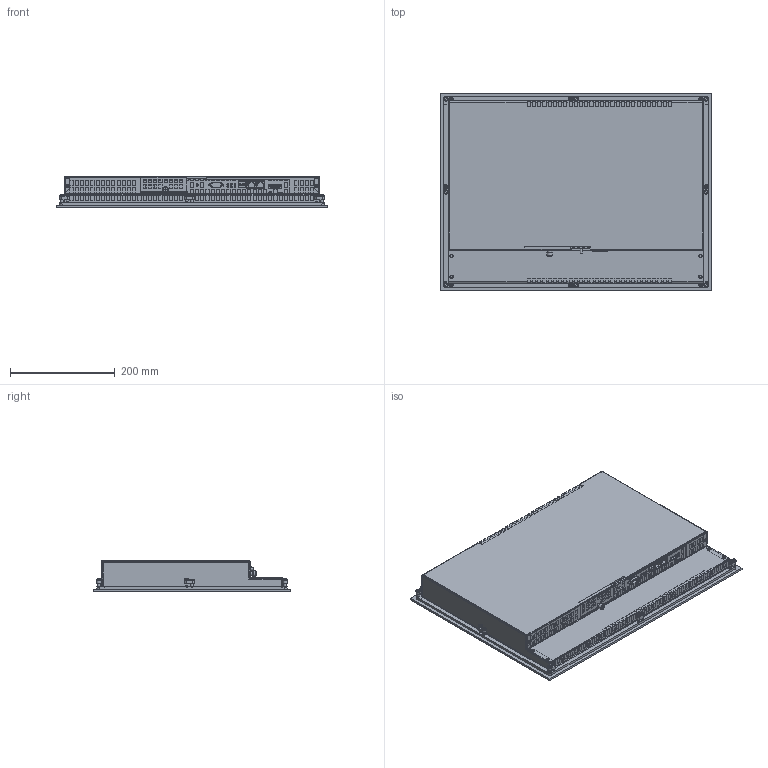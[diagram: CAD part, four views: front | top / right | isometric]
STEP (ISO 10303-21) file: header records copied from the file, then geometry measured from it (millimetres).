
FILE_DESCRIPTION((''),'2;1');
FILE_NAME('X:\0-inventor\0-3d-Teile\PC-Compo\solids\CP66xx\CP6622-0000+0001.stp','2010-06-17T12:54:49',('christianKreuzer'),(''),'Autodesk Inventor 2011','Autodesk Inventor 2011','');
FILE_SCHEMA(('AUTOMOTIVE_DESIGN { 1 0 10303 214 1 1 1 1 }'));
Length unit declared in the file: millimetre
Products named in the file (1): CP6622-0001-Step-Vorlage
Bounding box: 519.4 x 378.2 x 59 mm (x, y, z)
Volume: 8876810 mm3; surface area: 612918.2 mm2
Topology: 1 solids, 29 shells, 3006 faces, 8109 edges, 5332 vertices
Faces by surface type: plane 2397, cylinder 472, cone 80, torus 39, bspline 16, sphere 2
Full cylindrical faces by diameter (mm): 1.567 x2, 2.459 x2, 2.729 x2, 3 x19, 3.141 x8, 3.2 x18, 3.242 x8, 3.3 x8, 4 x25, 4.22 x1, 4.25 x1, 4.5 x16, 5.5 x8, 5.56 x1, 5.6 x2, 6.5 x9, 7 x8, 7.5 x1, 8.5 x8, 10.8 x1
Entity records: 95178 total; most frequent: CARTESIAN_POINT 17035, ORIENTED_EDGE 15626, DIRECTION 14767, EDGE_CURVE 7813, VECTOR 6493, LINE 6493, VERTEX_POINT 5251, AXIS2_PLACEMENT_3D 4137
